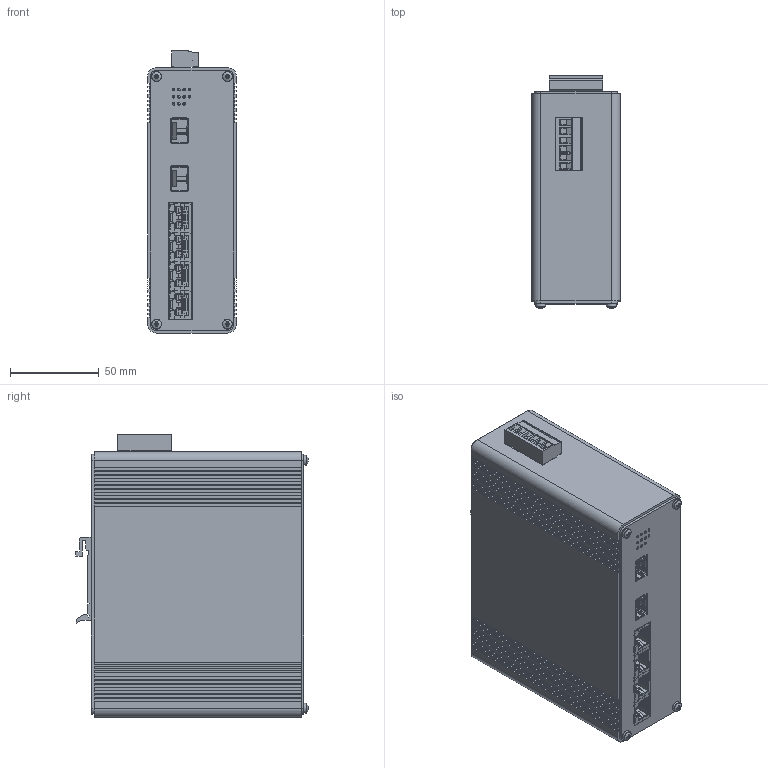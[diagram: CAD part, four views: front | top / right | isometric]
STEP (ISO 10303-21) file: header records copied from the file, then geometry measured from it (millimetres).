
FILE_DESCRIPTION(/* description */ (''),/* implementation_level */ '2;1');
FILE_NAME(/* name */ 'IS-UM-0402-0002 v1.step',/* time_stamp */ '2024-10-06T14:43:20+02:00',/* author */ (''),/* organization */ (''),/* preprocessor_version */ 'ST-DEVELOPER v20',/* originating_system */ 'Autodesk Translation Framework v13.20.0.188',/* authorisation */ '');
FILE_SCHEMA (('AUTOMOTIVE_DESIGN { 1 0 10303 214 3 1 1 }'));
Products named in the file (7): IS-UM-0402-0002; LED; 3M Screw; Digitus_DN-651107_LAN-Switch; POWER; SFP SLOT; 4 ports Ethernet
Assembly tree (20 placements, depth 2):
  IS-UM-0402-0002
    LED  x11
    3M Screw  x4
    Digitus_DN-651107_LAN-Switch
    POWER
    SFP SLOT  x2
    4 ports Ethernet
Bounding box: 50 x 131.19 x 159.4 mm (x, y, z)
Volume: 78177 mm3; surface area: 156385.4 mm2
Topology: 21 solids, 25 shells, 4084 faces, 11686 edges, 7555 vertices
Faces by surface type: plane 3207, cylinder 805, cone 49, bspline 11, torus 8, sphere 4
Full cylindrical faces by diameter (mm): 0.434 x1, 0.609 x2, 1.4 x6, 1.5 x22, 2 x24, 3 x8, 3.2 x3, 3.783 x6, 4 x6, 5.6 x4
Entity records: 106385 total; most frequent: CARTESIAN_POINT 18746, ORIENTED_EDGE 18336, DIRECTION 16610, EDGE_CURVE 9168, LINE 7950, VECTOR 7950, VERTEX_POINT 5933, AXIS2_PLACEMENT_3D 4330
